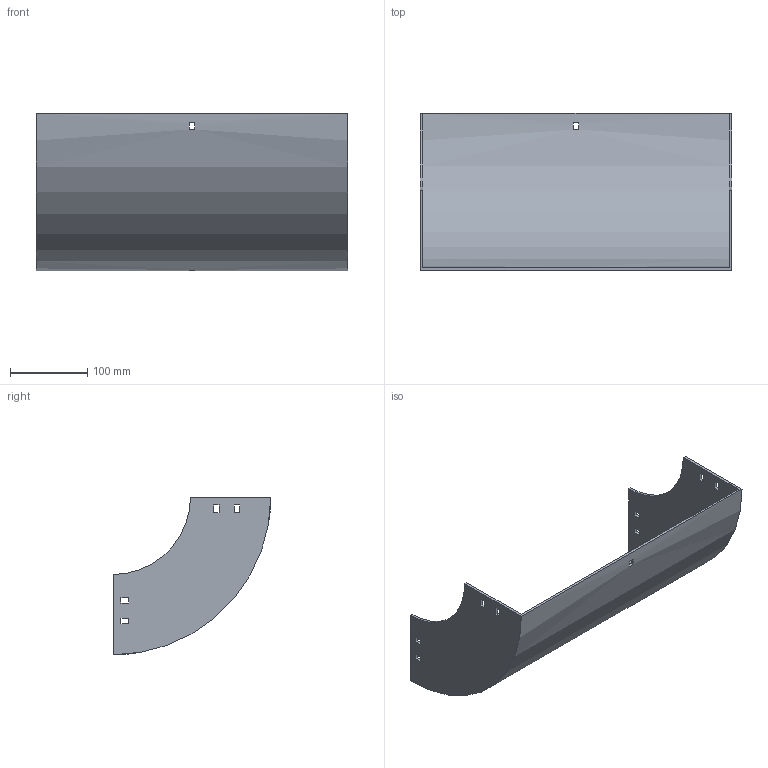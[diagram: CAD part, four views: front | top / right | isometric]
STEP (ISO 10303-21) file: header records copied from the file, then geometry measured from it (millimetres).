
FILE_DESCRIPTION (( 'STEP AP214' ), '1' );
FILE_NAME ('30B1D400.step', '2025-02-21T09:48:44', ( '' ), ( '' ), 'SwSTEP 2.0', 'SolidWorks 2023', '' );
FILE_SCHEMA (( 'AUTOMOTIVE_DESIGN' ));
Length unit declared in the file: millimetre
Products named in the file (1): 30B1D400
Bounding box: 404 x 204 x 204 mm (x, y, z)
Volume: 612882.3 mm3; surface area: 356742 mm2
Topology: 1 solids, 1 shells, 50 faces, 144 edges, 96 vertices
Faces by surface type: plane 46, cylinder 4
Entity records: 1687 total; most frequent: CARTESIAN_POINT 291, ORIENTED_EDGE 288, DIRECTION 262, EDGE_CURVE 144, VECTOR 128, LINE 128, VERTEX_POINT 96, EDGE_LOOP 70
